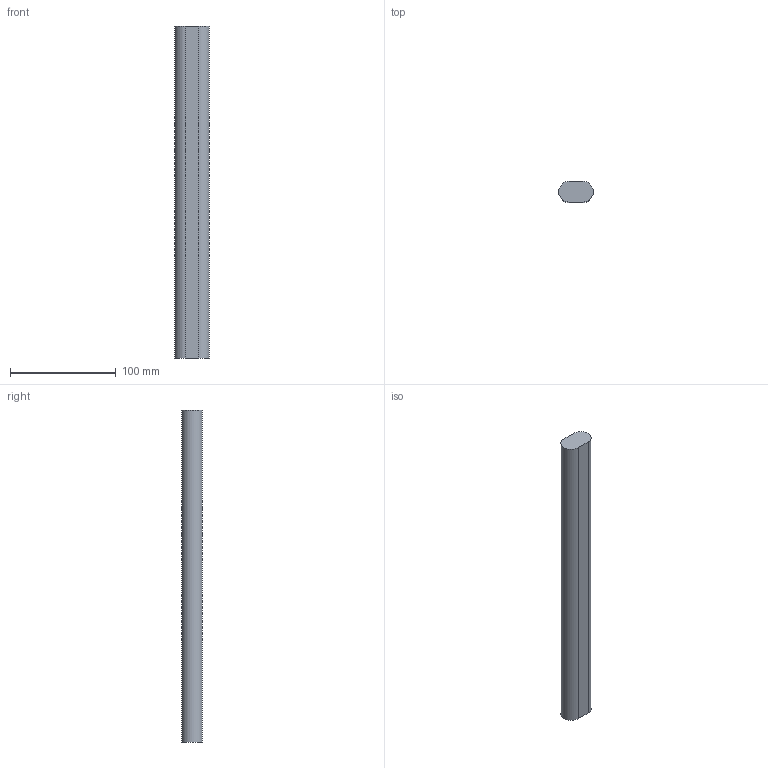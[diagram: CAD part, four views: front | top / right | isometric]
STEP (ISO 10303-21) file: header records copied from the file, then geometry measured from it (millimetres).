
FILE_DESCRIPTION(('Mechanical CAD reference from nasji.com'),'2;1');
FILE_NAME('NASJI.step','',(''),(''),'','NASJI distribution','');
FILE_SCHEMA(('AUTOMOTIVE_DESIGN { 1 0 10303 214 1 1 1 1 }'));
Length unit declared in the file: millimetre
Products named in the file (1): Open CASCADE STEP translator 7.8 223
Bounding box: 32.6 x 19.64 x 314.2 mm (x, y, z)
Volume: 175162 mm3; surface area: 28645.5 mm2
Topology: 1 solids, 1 shells, 6 faces, 12 edges, 8 vertices
Faces by surface type: plane 4, cylinder 2
Entity records: 326 total; most frequent: DIRECTION 54, CARTESIAN_POINT 51, LINE 28, VECTOR 28, ORIENTED_EDGE 24, PCURVE 24, DEFINITIONAL_REPRESENTATION 24, EDGE_CURVE 12
